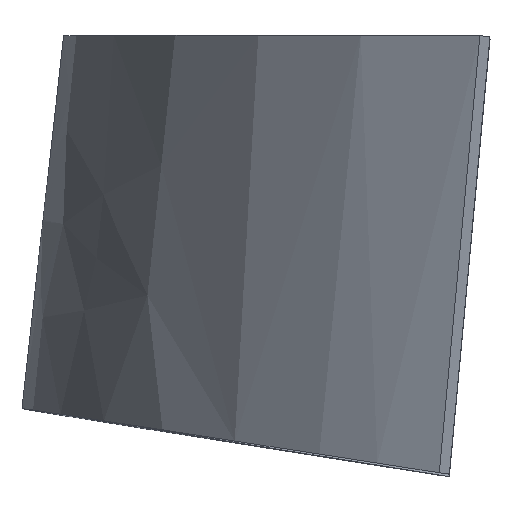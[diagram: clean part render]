
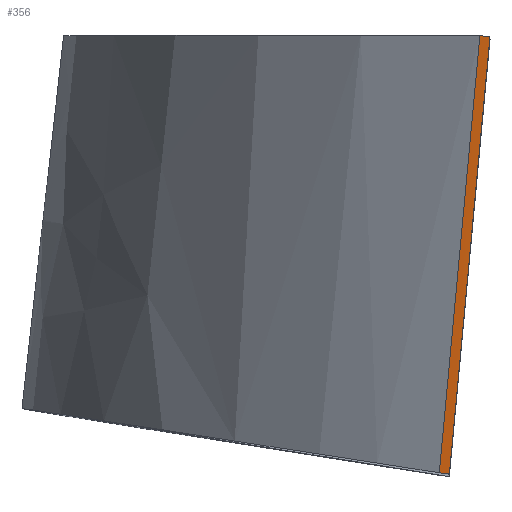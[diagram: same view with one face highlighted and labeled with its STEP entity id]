
A CAD part, top view. The second image highlights one B-rep face of the part: STEP entity #356.
In plain terms, the highlighted free-form (B-spline) face has degree [1, 3] with [2, 4] control points.
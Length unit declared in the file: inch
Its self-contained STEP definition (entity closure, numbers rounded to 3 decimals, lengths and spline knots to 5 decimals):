
#6 = B_SPLINE_CURVE_WITH_KNOTS ( 'NONE', 3,
 ( #330, #171, #90, #47 ),
 .UNSPECIFIED., .F., .F.,
 ( 4, 4 ),
 ( 0., 1. ),
 .UNSPECIFIED. ) ;
#14 = EDGE_CURVE ( 'NONE', #223, #451, #6, .T. ) ;
#18 = FACE_OUTER_BOUND ( 'NONE', #199, .T. ) ;
#25 = EDGE_CURVE ( 'NONE', #223, #424, #247, .T. ) ;
#31 = VERTEX_POINT ( 'NONE', #215 ) ;
#37 = CARTESIAN_POINT ( 'NONE',  ( 104.61062, 0., 26.40518 ) ) ;
#40 = CARTESIAN_POINT ( 'NONE',  ( 104.23385, 0.05113, 27.05165 ) ) ;
#47 = CARTESIAN_POINT ( 'NONE',  ( 104.61062, 0., 26.40518 ) ) ;
#82 = ORIENTED_EDGE ( 'NONE', *, *, #25, .F. ) ;
#90 = CARTESIAN_POINT ( 'NONE',  ( 104.10415, -5.44268, 26.5405 ) ) ;
#96 = CARTESIAN_POINT ( 'NONE',  ( 102.71697, -16.27711, 27.4591 ) ) ;
#114 = CARTESIAN_POINT ( 'NONE',  ( 102.71697, -16.27711, 27.4591 ) ) ;
#122 = EDGE_CURVE ( 'NONE', #424, #31, #328, .T. ) ;
#144 = CARTESIAN_POINT ( 'NONE',  ( 104.23385, 0.05113, 27.05165 ) ) ;
#171 = CARTESIAN_POINT ( 'NONE',  ( 103.59768, -10.88536, 26.67582 ) ) ;
#183 = CARTESIAN_POINT ( 'NONE',  ( 103.22261, -10.83436, 27.32329 ) ) ;
#185 = CARTESIAN_POINT ( 'NONE',  ( 102.71697, -16.27711, 27.4591 ) ) ;
#199 = EDGE_LOOP ( 'NONE', ( #82, #288, #482, #428 ) ) ;
#203 = CARTESIAN_POINT ( 'NONE',  ( 103.22261, -10.83436, 27.32329 ) ) ;
#215 = CARTESIAN_POINT ( 'NONE',  ( 104.23385, 0.05113, 27.05165 ) ) ;
#223 = VERTEX_POINT ( 'NONE', #384 ) ;
#247 = B_SPLINE_CURVE_WITH_KNOTS ( 'NONE', 1,
 ( #419, #96 ),
 .UNSPECIFIED., .F., .F.,
 ( 2, 2 ),
 ( 0., 1. ),
 .UNSPECIFIED. ) ;
#250 = CARTESIAN_POINT ( 'NONE',  ( 104.10415, -5.44268, 26.5405 ) ) ;
#288 = ORIENTED_EDGE ( 'NONE', *, *, #14, .T. ) ;
#293 = CARTESIAN_POINT ( 'NONE',  ( 103.0912, -16.32804, 26.81113 ) ) ;
#328 = B_SPLINE_CURVE_WITH_KNOTS ( 'NONE', 3,
 ( #114, #203, #405, #40 ),
 .UNSPECIFIED., .F., .F.,
 ( 4, 4 ),
 ( 0., 1. ),
 .UNSPECIFIED. ) ;
#330 = CARTESIAN_POINT ( 'NONE',  ( 103.0912, -16.32804, 26.81113 ) ) ;
#338 = CARTESIAN_POINT ( 'NONE',  ( 104.61062, 0., 26.40518 ) ) ;
#356 = ADVANCED_FACE ( 'NONE', ( #18 ), #374, .T. ) ;
#360 = B_SPLINE_CURVE_WITH_KNOTS ( 'NONE', 1,
 ( #366, #528 ),
 .UNSPECIFIED., .F., .F.,
 ( 2, 2 ),
 ( 0., 1. ),
 .UNSPECIFIED. ) ;
#366 = CARTESIAN_POINT ( 'NONE',  ( 104.61062, 0., 26.40518 ) ) ;
#374 = B_SPLINE_SURFACE_WITH_KNOTS ( 'NONE', 1, 3, ( 
 ( #185, #183, #427, #144 ),
 ( #293, #423, #250, #338 ) ),
 .UNSPECIFIED., .F., .F., .F.,
 ( 2, 2 ),
 ( 4, 4 ),
 ( 0., 1. ),
 ( -0.20833, 0.20833 ),
 .UNSPECIFIED. ) ;
#384 = CARTESIAN_POINT ( 'NONE',  ( 103.0912, -16.32804, 26.81113 ) ) ;
#402 = CARTESIAN_POINT ( 'NONE',  ( 102.71697, -16.27711, 27.4591 ) ) ;
#405 = CARTESIAN_POINT ( 'NONE',  ( 103.72824, -5.39161, 27.18748 ) ) ;
#419 = CARTESIAN_POINT ( 'NONE',  ( 103.0912, -16.32804, 26.81113 ) ) ;
#423 = CARTESIAN_POINT ( 'NONE',  ( 103.59768, -10.88536, 26.67582 ) ) ;
#424 = VERTEX_POINT ( 'NONE', #402 ) ;
#427 = CARTESIAN_POINT ( 'NONE',  ( 103.72824, -5.39161, 27.18748 ) ) ;
#428 = ORIENTED_EDGE ( 'NONE', *, *, #122, .F. ) ;
#449 = EDGE_CURVE ( 'NONE', #451, #31, #360, .T. ) ;
#451 = VERTEX_POINT ( 'NONE', #37 ) ;
#482 = ORIENTED_EDGE ( 'NONE', *, *, #449, .T. ) ;
#528 = CARTESIAN_POINT ( 'NONE',  ( 104.23385, 0.05113, 27.05165 ) ) ;
